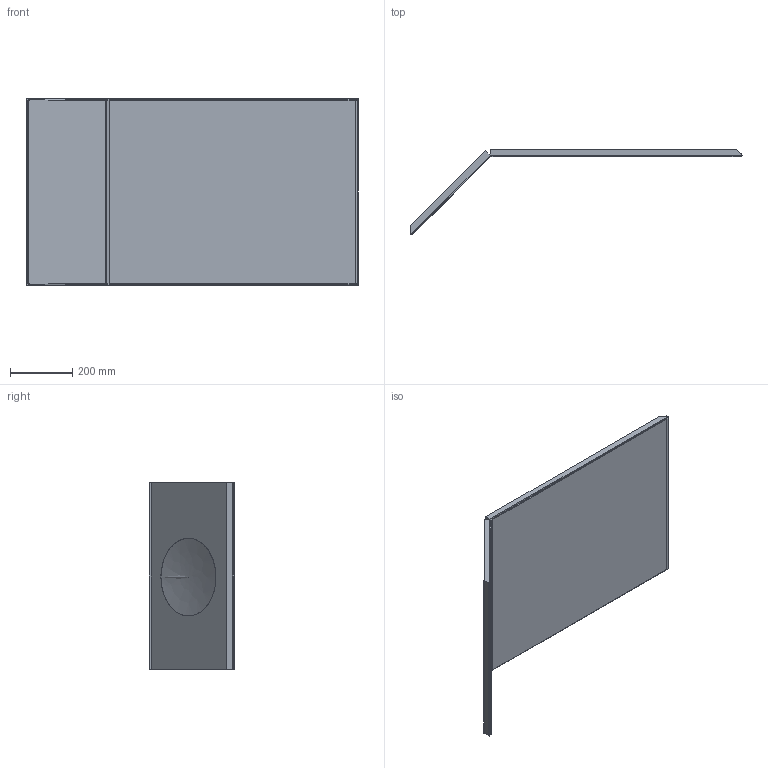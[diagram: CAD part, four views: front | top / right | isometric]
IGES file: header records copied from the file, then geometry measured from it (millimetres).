
Start section: Data from Parasolid IGES Translator 19.0.9, Copyright(c) 2006 Siemens PL M Software. All Rights Reserved.
Global section: file name: noorth-mirror-H 60 D 2,5 W 117_4237.igs; native system: By Siemens PLM Incorporated; preprocessor: XPlus GENERIC/IGES 19.0.9; author: Noname; organization: Noname; date: 20210721.091918; units: metre
Bounding box: 1067.36 x 274.85 x 600 mm (x, y, z)
Volume: 15534755.4 mm3; surface area: 3043490.6 mm2
Topology: 7 solids, 7 shells, 101 faces, 215 edges, 127 vertices
Faces by surface type: plane 83, cylinder 15, bspline 3
Full cylindrical faces by diameter (mm): 250 x1
